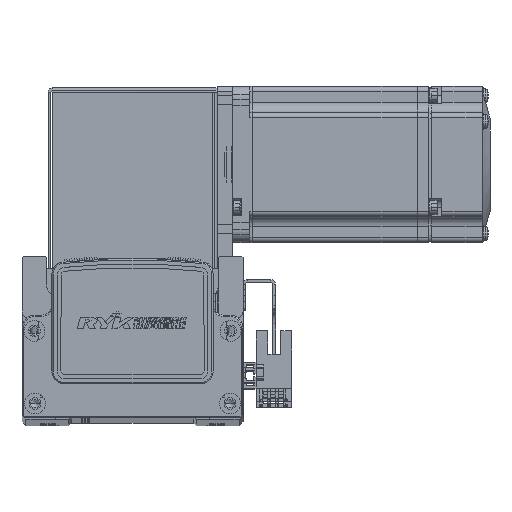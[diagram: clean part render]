
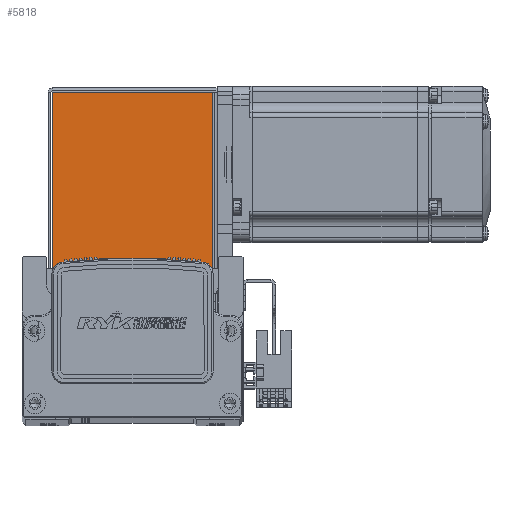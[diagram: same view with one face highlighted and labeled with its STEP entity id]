
A CAD part, top view. The second image highlights one B-rep face of the part: STEP entity #5818.
In plain terms, the highlighted planar face has unit normal (0, 0, 1) as drawn and (0, 0, -1) by its records, which use the part's own axes.
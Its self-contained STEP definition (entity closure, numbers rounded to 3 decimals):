
#34 = LINE ( 'NONE', #18957, #41 ) ;
#41 = VECTOR ( 'NONE', #18974, 1000. ) ;
#69 = LINE ( 'NONE', #18939, #73 ) ;
#73 = VECTOR ( 'NONE', #18976, 1000. ) ;
#5818 = ADVANCED_FACE ( 'NONE', ( #73058 ), #65701, .F. ) ;
#10548 = CARTESIAN_POINT ( 'NONE',  ( 30.763, 0.737, -35. ) ) ;
#10613 = CARTESIAN_POINT ( 'NONE',  ( -30.793, 0.737, -35. ) ) ;
#10652 = CARTESIAN_POINT ( 'NONE',  ( 30.763, 68.5, -35. ) ) ;
#10746 = CARTESIAN_POINT ( 'NONE',  ( -30.793, 68.5, -35. ) ) ;
#18773 = CARTESIAN_POINT ( 'NONE',  ( 30.763, 68.5, -35. ) ) ;
#18809 = DIRECTION ( 'NONE',  ( 0., -1., 0. ) ) ;
#18939 = CARTESIAN_POINT ( 'NONE',  ( -30.793, 0., -35. ) ) ;
#18957 = CARTESIAN_POINT ( 'NONE',  ( 0., 68.5, -35. ) ) ;
#18974 = DIRECTION ( 'NONE',  ( 1., 0., 0. ) ) ;
#18976 = DIRECTION ( 'NONE',  ( 0., 1., 0. ) ) ;
#20933 = EDGE_LOOP ( 'NONE', ( #57653, #57657, #57731, #57715 ) ) ;
#26018 = LINE ( 'NONE', #18773, #26030 ) ;
#26030 = VECTOR ( 'NONE', #18809, 1000. ) ;
#35196 = EDGE_CURVE ( 'NONE', #70813, #70809, #58430, .T. ) ;
#37168 = EDGE_CURVE ( 'NONE', #70845, #70809, #26018, .T. ) ;
#37222 = EDGE_CURVE ( 'NONE', #70877, #70845, #34, .T. ) ;
#37224 = EDGE_CURVE ( 'NONE', #70813, #70877, #69, .T. ) ;
#56440 = AXIS2_PLACEMENT_3D ( 'NONE', #65708, #65712, #65716 ) ;
#57653 = ORIENTED_EDGE ( 'NONE', *, *, #37168, .T. ) ;
#57657 = ORIENTED_EDGE ( 'NONE', *, *, #35196, .F. ) ;
#57715 = ORIENTED_EDGE ( 'NONE', *, *, #37222, .T. ) ;
#57731 = ORIENTED_EDGE ( 'NONE', *, *, #37224, .T. ) ;
#58430 = LINE ( 'NONE', #63579, #58453 ) ;
#58453 = VECTOR ( 'NONE', #63577, 1000. ) ;
#63577 = DIRECTION ( 'NONE',  ( 1., 0., 0. ) ) ;
#63579 = CARTESIAN_POINT ( 'NONE',  ( 32.5, 0.737, -35. ) ) ;
#65701 = PLANE ( 'NONE',  #56440 ) ;
#65708 = CARTESIAN_POINT ( 'NONE',  ( 0., 0., -35. ) ) ;
#65712 = DIRECTION ( 'NONE',  ( 0., 0., 1. ) ) ;
#65716 = DIRECTION ( 'NONE',  ( 0., -1., 0. ) ) ;
#70809 = VERTEX_POINT ( 'NONE', #10548 ) ;
#70813 = VERTEX_POINT ( 'NONE', #10613 ) ;
#70845 = VERTEX_POINT ( 'NONE', #10652 ) ;
#70877 = VERTEX_POINT ( 'NONE', #10746 ) ;
#73058 = FACE_OUTER_BOUND ( 'NONE', #20933, .T. ) ;
